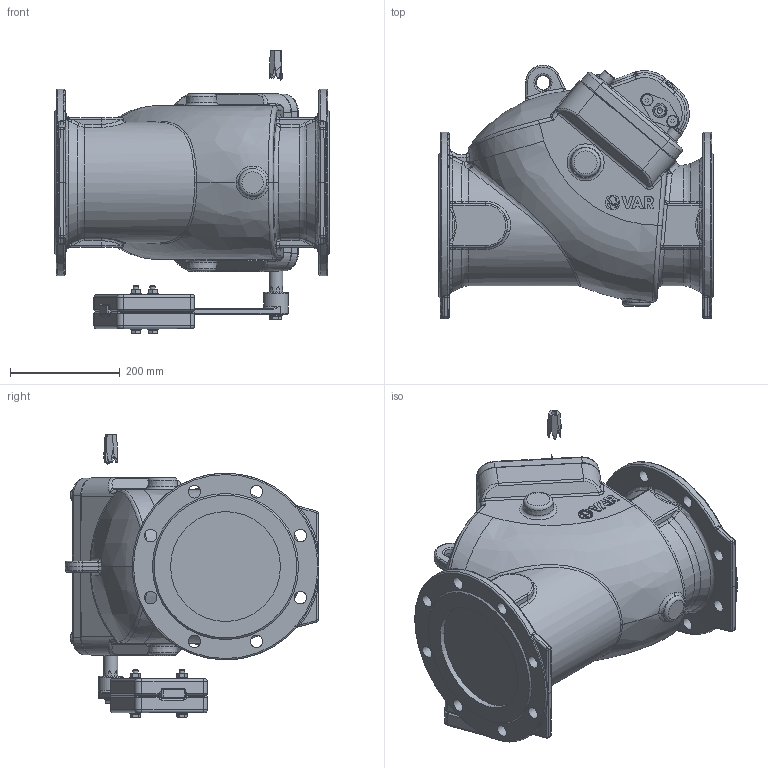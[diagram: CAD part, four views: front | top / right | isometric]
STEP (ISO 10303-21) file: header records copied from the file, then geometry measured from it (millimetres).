
FILE_DESCRIPTION(('STEP AP203'), '1');
FILE_NAME('VAR LIMU-STOP Îáðàòíûé êëàïàí DN 200 PN 10 c ðû÷àãîì è ïðîòèâîâåñîì', '2026-06-28T08:29:16', (' '), (' '), 'C3D Converter', 'C3D Toolkit', '');
FILE_SCHEMA(('CONFIG_CONTROL_DESIGN'));
Length unit declared in the file: millimetre
Products named in the file (1): Admi0C102497dlrw
Bounding box: 500 x 461.96 x 514.4 mm (x, y, z)
Volume: 39850111 mm3; surface area: 1097561.7 mm2
Topology: 2 solids, 16 shells, 1249 faces, 3139 edges, 1936 vertices
Faces by surface type: plane 389, cylinder 281, bspline 246, extrusion 135, torus 102, cone 64, sphere 32
Full cylindrical faces by diameter (mm): 10 x12, 10.106 x2, 10.5 x4, 11 x4, 11.053 x1, 13 x1, 15.6 x2, 16 x4, 17 x4, 17.2 x1, 20 x8, 23 x16, 24 x5, 25 x3, 26 x2, 26.59 x1, 30 x4, 45 x1, 200 x2
Entity records: 85577 total; most frequent: CARTESIAN_POINT 50070, ORIENTED_EDGE 5880, DIRECTION 4517, EDGE_CURVE 2940, VERTEX_POINT 1903, AXIS2_PLACEMENT_3D 1673, EDGE_LOOP 1495, FACE_BOUND 1409
